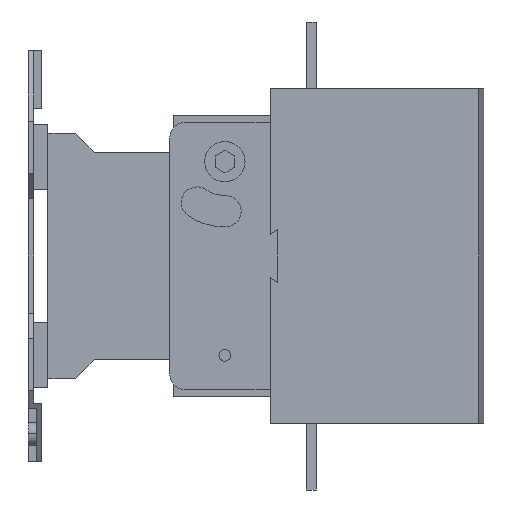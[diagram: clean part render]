
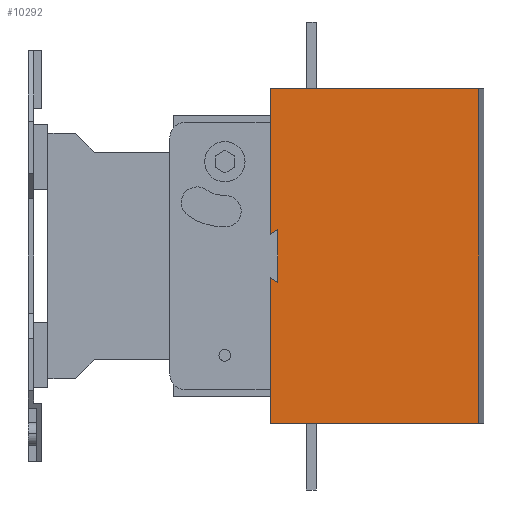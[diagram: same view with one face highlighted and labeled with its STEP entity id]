
A CAD part, left-side view. The second image highlights one B-rep face of the part: STEP entity #10292.
In plain terms, the highlighted planar face has unit normal (-1, 0, 0).
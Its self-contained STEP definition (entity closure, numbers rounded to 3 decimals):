
#3173=DIRECTION('',(0.,0.,-1.));
#3174=VECTOR('',#3173,25.);
#3175=CARTESIAN_POINT('',(-107.,106.,-60.));
#3176=LINE('',#3175,#3174);
#3197=DIRECTION('',(0.,0.,-1.));
#3198=VECTOR('',#3197,25.);
#3199=CARTESIAN_POINT('',(-107.,106.,85.));
#3200=LINE('',#3199,#3198);
#3201=DIRECTION('',(0.,0.,-1.));
#3202=VECTOR('',#3201,120.);
#3203=CARTESIAN_POINT('',(-107.,106.,60.));
#3204=LINE('',#3203,#3202);
#3205=DIRECTION('',(0.,1.,0.));
#3206=VECTOR('',#3205,106.);
#3207=CARTESIAN_POINT('',(-107.,0.,85.));
#3208=LINE('',#3207,#3206);
#3209=DIRECTION('',(0.,0.,-1.));
#3210=VECTOR('',#3209,170.);
#3211=CARTESIAN_POINT('',(-107.,0.,85.));
#3212=LINE('',#3211,#3210);
#3579=DIRECTION('',(0.,1.,0.));
#3580=VECTOR('',#3579,106.);
#3581=CARTESIAN_POINT('',(-107.,0.,-85.));
#3582=LINE('',#3581,#3580);
#4386=CARTESIAN_POINT('',(-107.,106.,-60.));
#4388=VERTEX_POINT('',#4386);
#4390=CARTESIAN_POINT('',(-107.,106.,60.));
#4392=VERTEX_POINT('',#4390);
#5744=CARTESIAN_POINT('',(-107.,0.,-85.));
#5746=VERTEX_POINT('',#5744);
#5748=CARTESIAN_POINT('',(-107.,0.,85.));
#5750=VERTEX_POINT('',#5748);
#5751=CARTESIAN_POINT('',(-107.,106.,85.));
#5752=VERTEX_POINT('',#5751);
#5753=CARTESIAN_POINT('',(-107.,106.,-85.));
#5754=VERTEX_POINT('',#5753);
#10276=CARTESIAN_POINT('',(-107.,0.,85.));
#10277=DIRECTION('',(1.,0.,0.));
#10278=DIRECTION('',(0.,0.,-1.));
#10279=AXIS2_PLACEMENT_3D('',#10276,#10277,#10278);
#10280=PLANE('',#10279);
#10281=ORIENTED_EDGE('',*,*,#9667,.F.);
#10282=ORIENTED_EDGE('',*,*,#10271,.F.);
#10284=ORIENTED_EDGE('',*,*,#10283,.F.);
#10286=ORIENTED_EDGE('',*,*,#10285,.T.);
#10288=ORIENTED_EDGE('',*,*,#10287,.T.);
#10289=ORIENTED_EDGE('',*,*,#10252,.F.);
#10290=EDGE_LOOP('',(#10281,#10282,#10284,#10286,#10288,#10289));
#10291=FACE_OUTER_BOUND('',#10290,.F.);
#10292=ADVANCED_FACE('',(#10291),#10280,.F.);
#9667=EDGE_CURVE('',#4392,#4388,#3204,.T.);
#10252=EDGE_CURVE('',#4388,#5754,#3176,.T.);
#10271=EDGE_CURVE('',#5752,#4392,#3200,.T.);
#10283=EDGE_CURVE('',#5750,#5752,#3208,.T.);
#10285=EDGE_CURVE('',#5750,#5746,#3212,.T.);
#10287=EDGE_CURVE('',#5746,#5754,#3582,.T.);
